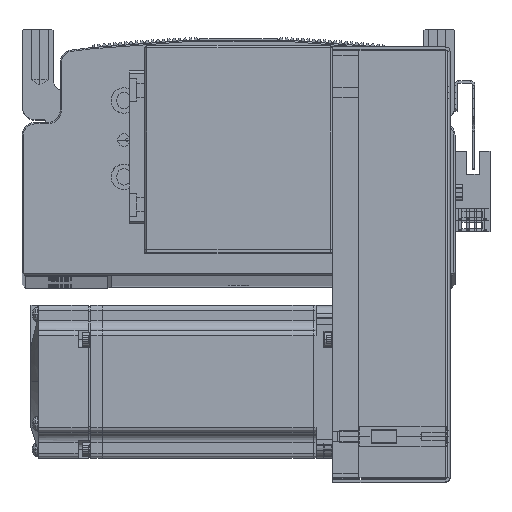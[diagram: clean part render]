
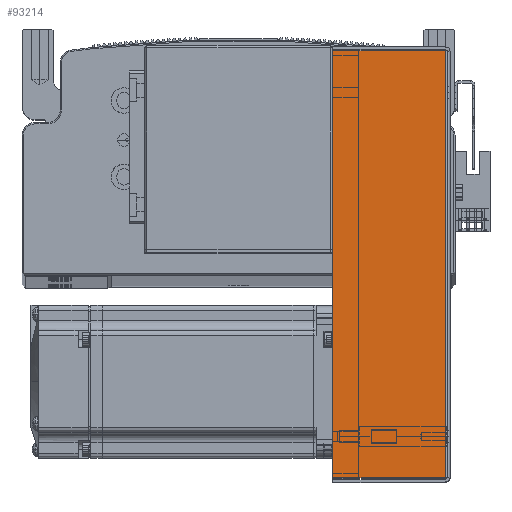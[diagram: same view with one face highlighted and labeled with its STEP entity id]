
A CAD part, top view. The second image highlights one B-rep face of the part: STEP entity #93214.
In plain terms, the highlighted planar face has unit normal (0, 0, 1) as drawn and (0, 0, -1) by its records, which use the part's own axes.
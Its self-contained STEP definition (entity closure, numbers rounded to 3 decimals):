
#3207 = FACE_OUTER_BOUND ( 'NONE', #36345, .T. ) ;
#8973 = PLANE ( 'NONE',  #87155 ) ;
#8979 = CARTESIAN_POINT ( 'NONE',  ( 0., 0., -40.5 ) ) ;
#9006 = DIRECTION ( 'NONE',  ( 0., -1., 0. ) ) ;
#9009 = DIRECTION ( 'NONE',  ( 0., 0., 1. ) ) ;
#24129 = VECTOR ( 'NONE', #56269, 1000. ) ;
#24140 = LINE ( 'NONE', #56261, #24129 ) ;
#24157 = VECTOR ( 'NONE', #56308, 1000. ) ;
#24165 = LINE ( 'NONE', #56326, #24157 ) ;
#24428 = VECTOR ( 'NONE', #56509, 1000. ) ;
#24433 = LINE ( 'NONE', #56540, #24464 ) ;
#24439 = LINE ( 'NONE', #56517, #24428 ) ;
#24464 = VECTOR ( 'NONE', #56561, 1000. ) ;
#36345 = EDGE_LOOP ( 'NONE', ( #68915, #68876, #68951, #68877 ) ) ;
#51789 = CARTESIAN_POINT ( 'NONE',  ( -83.793, 0.737, -40.5 ) ) ;
#51905 = CARTESIAN_POINT ( 'NONE',  ( -83.793, 45., -40.5 ) ) ;
#51943 = CARTESIAN_POINT ( 'NONE',  ( 83.793, 0.737, -40.5 ) ) ;
#51950 = CARTESIAN_POINT ( 'NONE',  ( 83.793, 45., -40.5 ) ) ;
#53263 = EDGE_CURVE ( 'NONE', #57722, #57747, #24140, .T. ) ;
#53278 = EDGE_CURVE ( 'NONE', #57683, #57722, #24165, .T. ) ;
#53338 = EDGE_CURVE ( 'NONE', #57683, #57796, #24439, .T. ) ;
#53347 = EDGE_CURVE ( 'NONE', #57796, #57747, #24433, .T. ) ;
#56261 = CARTESIAN_POINT ( 'NONE',  ( 83.793, 0., -40.5 ) ) ;
#56269 = DIRECTION ( 'NONE',  ( 0., 1., 0. ) ) ;
#56308 = DIRECTION ( 'NONE',  ( 1., 0., 0. ) ) ;
#56326 = CARTESIAN_POINT ( 'NONE',  ( 0., 0.737, -40.5 ) ) ;
#56509 = DIRECTION ( 'NONE',  ( 0., 1., 0. ) ) ;
#56517 = CARTESIAN_POINT ( 'NONE',  ( -83.793, 0., -40.5 ) ) ;
#56540 = CARTESIAN_POINT ( 'NONE',  ( 84.5, 45., -40.5 ) ) ;
#56561 = DIRECTION ( 'NONE',  ( 1., 0., 0. ) ) ;
#57683 = VERTEX_POINT ( 'NONE', #51789 ) ;
#57722 = VERTEX_POINT ( 'NONE', #51943 ) ;
#57747 = VERTEX_POINT ( 'NONE', #51950 ) ;
#57796 = VERTEX_POINT ( 'NONE', #51905 ) ;
#68876 = ORIENTED_EDGE ( 'NONE', *, *, #53338, .T. ) ;
#68877 = ORIENTED_EDGE ( 'NONE', *, *, #53263, .F. ) ;
#68915 = ORIENTED_EDGE ( 'NONE', *, *, #53278, .F. ) ;
#68951 = ORIENTED_EDGE ( 'NONE', *, *, #53347, .T. ) ;
#87155 = AXIS2_PLACEMENT_3D ( 'NONE', #8979, #9009, #9006 ) ;
#93214 = ADVANCED_FACE ( 'NONE', ( #3207 ), #8973, .F. ) ;
